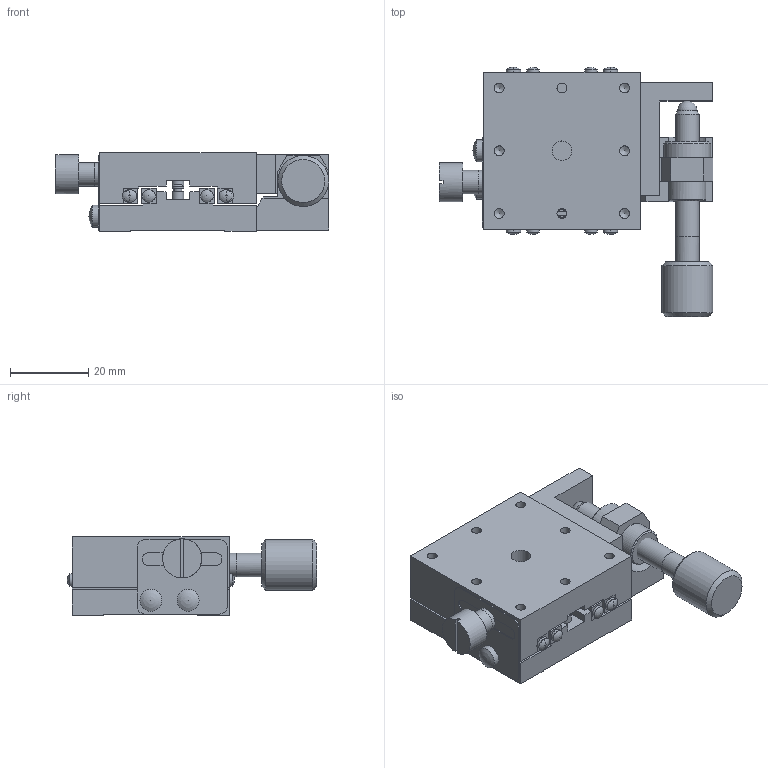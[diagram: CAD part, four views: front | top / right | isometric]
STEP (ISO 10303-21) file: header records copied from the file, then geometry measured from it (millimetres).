
FILE_DESCRIPTION( ( 'STEP AP203' ), '1' );
FILE_NAME( 'C:/3D-Trans/3D_B11-40CR+080630.step', '2008-06-30T00:57:03', ( ' ' ), ( ' ' ), 'XStep 1.0', ' ', ' ' );
FILE_SCHEMA( ( 'CONFIG_CONTROL_DESIGN' ) );
Length unit declared in the file: millimetre
Products named in the file (17): 1; 2; 3; 4; 5; 6; 7; 8; 9; 10; 11; 12; 13; 14; 15; 16; 17
Bounding box: 69.8 x 63.6 x 20 mm (x, y, z)
Volume: 46911.1 mm3; surface area: 25040.5 mm2
Topology: 17 solids, 17 shells, 355 faces, 857 edges, 558 vertices
Faces by surface type: plane 208, cylinder 97, cone 25, sphere 25
Full cylindrical faces by diameter (mm): 2 x4, 2.5 x14, 2.6 x2, 3 x12, 3.2 x12, 3.5 x4, 5 x1, 5.5 x2, 5.6 x4, 6 x9, 9.5 x2, 10 x2, 12 x2, 13 x1
Entity records: 9958 total; most frequent: CARTESIAN_POINT 1629, DIRECTION 1624, ORIENTED_EDGE 1346, EDGE_CURVE 673, AXIS2_PLACEMENT_3D 600, EDGE_LOOP 512, VERTEX_POINT 491, FACE_OUTER_BOUND 426
